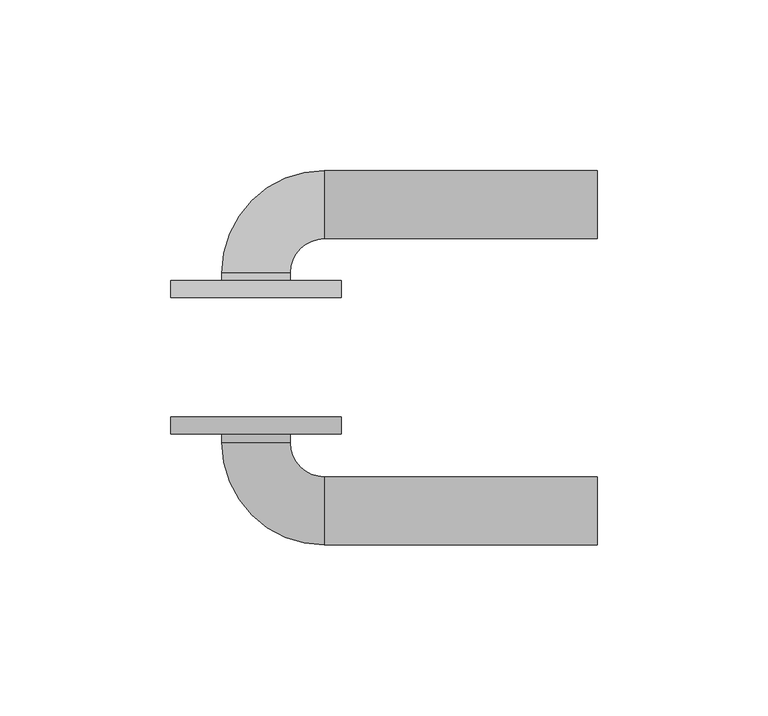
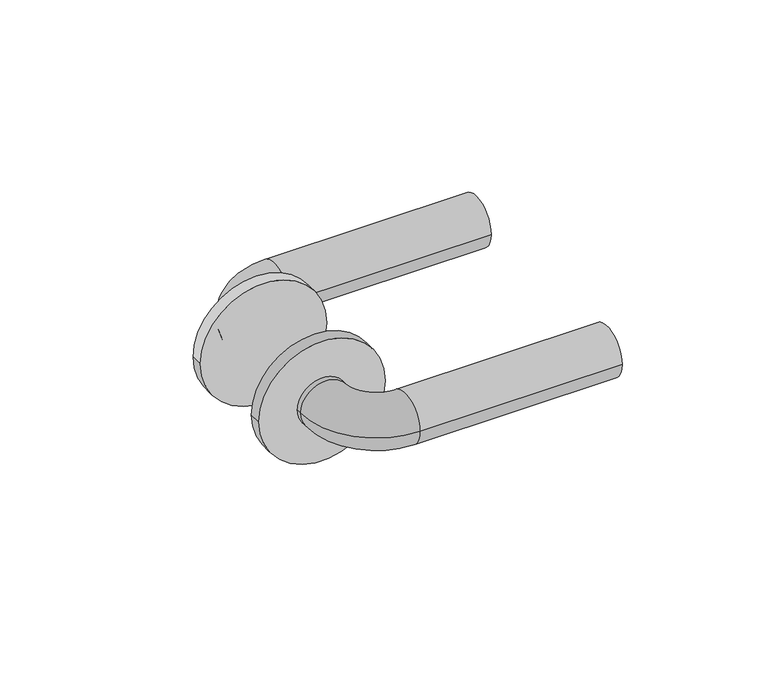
"""IFC4 building model written with IfcOpenShell, lengths in millimetres: proxy geometry, MAÇANETA CUSTOMIZADA : FECHADURA EXTERNA."""

from ifc_helpers import new_model, si_unit, point, frame, origin, origin_2d, place, context, project, spatial, circle_curve, ellipse_curve, trimmed, segment, composite_curve, outline, extrude, source, transform, mapped, element, save
from ifc_brep_helpers import plane_surface, cylinder_surface, revolved_surface, advanced_brep


def generic_models_5bc66575(model_context):
    return source(origin(), model_context, "Body", "SolidModel", [
        extrude(outline(composite_curve([segment(trimmed(circle_curve(origin_2d(), 25.0), [point((0.0, 25.0))], [point((0.0, -25.0))], False, "CARTESIAN"), True, "CONTINUOUS"), segment(trimmed(circle_curve(origin_2d(), 25.0), [point((0.0, -25.0))], [point((0.0, 25.0))], False, "CARTESIAN"), True, "CONTINUOUS")], self_intersect=False)), frame((0.0, -22.5, 0.0), z_axis=(0.0, 1.0, 0.0), x_axis=(0.0, 0.0, 1.0)), (0.0, 0.0, 1.0), 5.0),
        advanced_brep(
        [(-10.0, -22.5, 0.0), (10.0, -22.5, 0.0), (10.0, -25.0, 0.0), (-10.0, -25.0, 0.0), (20.0, -55.0, 0.0), (20.0, -35.0, 0.0), (100.0, -55.0, 0.0), (100.0, -35.0, 0.0)],
        [
            (0, 1, circle_curve(frame((0.0, -22.5, 0.0), z_axis=(0.0, 1.0, 0.0), x_axis=(1.0, 0.0, 0.0)), 10.0)),
            (1, 0, circle_curve(frame((0.0, -22.5, 0.0), z_axis=(0.0, 1.0, 0.0), x_axis=(1.0, 0.0, 0.0)), 10.0)),
            (1, 2),
            (2, 3, circle_curve(frame((0.0, -25.0, 0.0), z_axis=(0.0, 1.0, 0.0), x_axis=(1.0, 0.0, 0.0)), 10.0)),
            (3, 0),
            (3, 2, circle_curve(frame((0.0, -25.0, 0.0), z_axis=(0.0, 1.0, 0.0), x_axis=(1.0, 0.0, 0.0)), 10.0)),
            (4, 3, circle_curve(frame((20.0, -25.0, 0.0), z_axis=(0.0, 0.0, -1.0), x_axis=(-1.0, 0.0, 0.0)), 30.0)),
            (2, 5, circle_curve(frame((20.0, -25.0, 0.0), z_axis=(0.0, 0.0, 1.0), x_axis=(-1.0, 0.0, 0.0)), 10.0)),
            (5, 4, circle_curve(frame((20.0, -45.0, 0.0), z_axis=(-1.0, 0.0, 0.0), x_axis=(0.0, 1.0, 0.0)), 10.0)),
            (4, 5, circle_curve(frame((20.0, -45.0, 0.0), z_axis=(-1.0, 0.0, 0.0), x_axis=(0.0, 1.0, 0.0)), 10.0)),
            (6, 7, circle_curve(frame((100.0, -45.0, 0.0), z_axis=(1.0, 0.0, 0.0), x_axis=(0.0, 1.0, 0.0)), 10.0)),
            (7, 6, circle_curve(frame((100.0, -45.0, 0.0), z_axis=(1.0, 0.0, 0.0), x_axis=(0.0, 1.0, 0.0)), 10.0)),
            (5, 7),
            (6, 4),
        ],
        [
            plane_surface(frame((0.0, -22.5, 0.0), z_axis=(0.0, 1.0, 0.0), x_axis=(0.0, 0.0, 1.0))),
            cylinder_surface(frame((0.0, -22.5, 0.0), z_axis=(0.0, 1.0, 0.0), x_axis=(1.0, 0.0, 0.0)), 10.0),
            revolved_surface(trimmed(ellipse_curve(frame((0.0, -25.0, 0.0), z_axis=(0.0, 1.0, 0.0), x_axis=(1.0, 0.0, 0.0)), 10.0, 10.0), [point((10.0, -25.0, 0.0))], [point((-10.0, -25.0, 0.0))], True, "CARTESIAN"), (20.0, -25.0, 0.0), (0.0, 0.0, 1.0)),
            revolved_surface(trimmed(ellipse_curve(frame((0.0, -25.0, 0.0), z_axis=(0.0, 1.0, 0.0), x_axis=(1.0, 0.0, 0.0)), 10.0, 10.0), [point((-10.0, -25.0, 0.0))], [point((10.0, -25.0, 0.0))], True, "CARTESIAN"), (20.0, -25.0, 0.0), (0.0, 0.0, 1.0)),
            plane_surface(frame((100.0, -45.0, 0.0), z_axis=(1.0, 0.0, 0.0), x_axis=(0.0, 0.0, 1.0))),
            cylinder_surface(frame((20.0, -45.0, 0.0), z_axis=(-1.0, 0.0, 0.0), x_axis=(0.0, 1.0, 0.0)), 10.0),
        ],
        [
            (0, [[1, 2]]),
            (1, [[-2, 3, 4, 5]]),
            (1, [[-1, -5, 6, -3]]),
            (2, [[7, -4, 8, 9]]),
            (3, [[-8, -6, -7, 10]]),
            (4, [[11, 12]]),
            (5, [[-9, 13, -11, 14]]),
            (5, [[-10, -14, -12, -13]]),
        ],
    ),
        extrude(outline(composite_curve([segment(trimmed(circle_curve(origin_2d(), 25.0), [point((0.0, -25.0))], [point((0.0, 25.0))], False, "CARTESIAN"), True, "CONTINUOUS"), segment(trimmed(circle_curve(origin_2d(), 25.0), [point((0.0, 25.0))], [point((0.0, -25.0))], False, "CARTESIAN"), True, "CONTINUOUS")], self_intersect=False)), frame((0.0, 17.5, 0.0), z_axis=(0.0, 1.0, 0.0), x_axis=(0.0, 0.0, 1.0)), (0.0, 0.0, 1.0), 5.0),
        advanced_brep(
        [(10.0, 22.5, 0.0), (-10.0, 22.5, 0.0), (10.0, 24.77662, 0.0), (-10.0, 24.77662, 0.0), (20.0, 54.77662, 0.0), (20.0, 34.77662, 0.0), (100.0, 34.77662, 0.0), (100.0, 54.77662, 0.0)],
        [
            (0, 1, circle_curve(frame((0.0, 22.5, 0.0), z_axis=(0.0, -1.0, 0.0), x_axis=(-1.0, 0.0, 0.0)), 10.0)),
            (1, 0, circle_curve(frame((0.0, 22.5, 0.0), z_axis=(0.0, -1.0, 0.0), x_axis=(-1.0, 0.0, 0.0)), 10.0)),
            (0, 2),
            (2, 3, circle_curve(frame((0.0, 24.77662, 0.0), z_axis=(0.0, -1.0, 0.0), x_axis=(-1.0, 0.0, 0.0)), 10.0)),
            (3, 1),
            (3, 2, circle_curve(frame((0.0, 24.77662, 0.0), z_axis=(0.0, -1.0, 0.0), x_axis=(-1.0, 0.0, 0.0)), 10.0)),
            (4, 3, circle_curve(frame((20.0, 24.77662, 0.0), z_axis=(0.0, 0.0, 1.0), x_axis=(-1.0, 0.0, 0.0)), 30.0)),
            (2, 5, circle_curve(frame((20.0, 24.77662, 0.0), z_axis=(0.0, 0.0, -1.0), x_axis=(-1.0, 0.0, 0.0)), 10.0)),
            (5, 4, circle_curve(frame((20.0, 44.77662, 0.0), z_axis=(-1.0, 0.0, 0.0), x_axis=(0.0, 1.0, 0.0)), 10.0)),
            (4, 5, circle_curve(frame((20.0, 44.77662, 0.0), z_axis=(-1.0, 0.0, 0.0), x_axis=(0.0, 1.0, 0.0)), 10.0)),
            (6, 7, circle_curve(frame((100.0, 44.77662, 0.0), z_axis=(1.0, 0.0, 0.0), x_axis=(0.0, 1.0, 0.0)), 10.0)),
            (7, 6, circle_curve(frame((100.0, 44.77662, 0.0), z_axis=(1.0, 0.0, 0.0), x_axis=(0.0, 1.0, 0.0)), 10.0)),
            (5, 6),
            (7, 4),
        ],
        [
            plane_surface(frame((0.0, 22.5, 0.0), z_axis=(0.0, -1.0, 0.0), x_axis=(0.0, 0.0, 1.0))),
            cylinder_surface(frame((0.0, 22.5, 0.0), z_axis=(0.0, -1.0, 0.0), x_axis=(-1.0, 0.0, 0.0)), 10.0),
            revolved_surface(trimmed(ellipse_curve(frame((0.0, 24.77662, 0.0), z_axis=(0.0, -1.0, 0.0), x_axis=(-1.0, 0.0, 0.0)), 10.0, 10.0), [point((10.0, 24.77662, 0.0))], [point((-10.0, 24.77662, 0.0))], True, "CARTESIAN"), (20.0, 24.77662, 0.0), (0.0, 0.0, -1.0)),
            revolved_surface(trimmed(ellipse_curve(frame((0.0, 24.77662, 0.0), z_axis=(0.0, -1.0, 0.0), x_axis=(-1.0, 0.0, 0.0)), 10.0, 10.0), [point((-10.0, 24.77662, 0.0))], [point((10.0, 24.77662, 0.0))], True, "CARTESIAN"), (20.0, 24.77662, 0.0), (0.0, 0.0, -1.0)),
            plane_surface(frame((100.0, 44.77662, 0.0), z_axis=(1.0, 0.0, 0.0), x_axis=(0.0, 0.0, 1.0))),
            cylinder_surface(frame((20.0, 44.77662, 0.0), z_axis=(-1.0, 0.0, 0.0), x_axis=(0.0, 1.0, 0.0)), 10.0),
        ],
        [
            (0, [[1, 2]]),
            (1, [[-1, 3, 4, 5]]),
            (1, [[-2, -5, 6, -3]]),
            (2, [[7, -4, 8, 9]]),
            (3, [[-8, -6, -7, 10]]),
            (4, [[11, 12]]),
            (5, [[-9, 13, -12, 14]]),
            (5, [[-10, -14, -11, -13]]),
        ],
    ),
    ])


if __name__ == "__main__":
    model = new_model("IFC4")
    model_context = context("Model", 3, world=origin())
    ifc_project = project(units=[si_unit("LENGTHUNIT", "METRE", prefix="MILLI")], contexts=[model_context])
    site = spatial("IfcSite", under=ifc_project)
    building = spatial("IfcBuilding", under=site)
    placement = place(None, origin())
    generic_models_shape = generic_models_5bc66575(model_context)
    element("IfcBuildingElementProxy", 1, Name="MAÇANETA CUSTOMIZADA : FECHADURA EXTERNA", ObjectType="MAÇANETA CUSTOMIZADA : FECHADURA EXTERNA", at=placement, inside=building, context=model_context, shape_type="MappedRepresentation", body=[
        mapped(generic_models_shape, transform((0.0, 0.0, 0.0), x_axis=(1.0, 0.0, 0.0), y_axis=(0.0, 1.0, 0.0), z_axis=(0.0, 0.0, 1.0))),
    ])
    save(model, "model.ifc")
